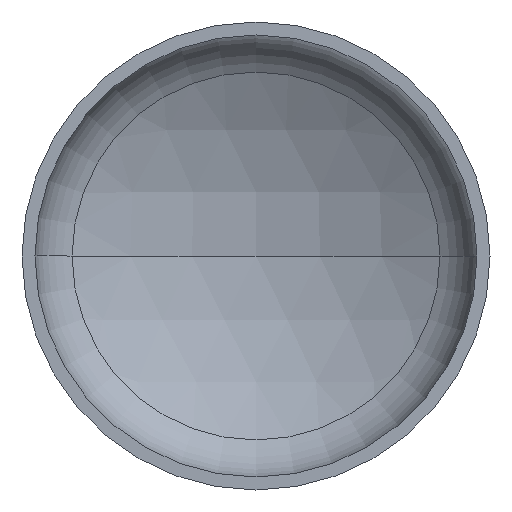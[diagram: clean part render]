
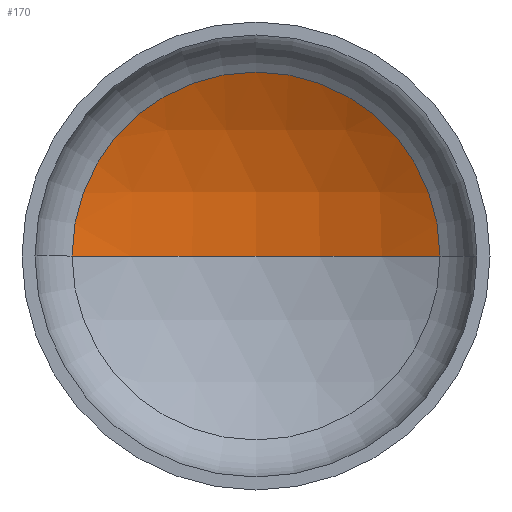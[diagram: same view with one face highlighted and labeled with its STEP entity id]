
A CAD part, front view. The second image highlights one B-rep face of the part: STEP entity #170.
In plain terms, the highlighted spherical face has radius 720 mm.
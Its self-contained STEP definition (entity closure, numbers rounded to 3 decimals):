
#21 = EDGE_LOOP ( 'NONE', ( #45, #77, #358 ) ) ;
#25 = AXIS2_PLACEMENT_3D ( 'NONE', #293, #277, #197 ) ;
#39 = VERTEX_POINT ( 'NONE', #300 ) ;
#45 = ORIENTED_EDGE ( 'NONE', *, *, #134, .F. ) ;
#48 = AXIS2_PLACEMENT_3D ( 'NONE', #212, #410, #347 ) ;
#53 = AXIS2_PLACEMENT_3D ( 'NONE', #236, #231, #233 ) ;
#57 = AXIS2_PLACEMENT_3D ( 'NONE', #214, #217, #308 ) ;
#76 = VERTEX_POINT ( 'NONE', #271 ) ;
#77 = ORIENTED_EDGE ( 'NONE', *, *, #119, .T. ) ;
#80 = VERTEX_POINT ( 'NONE', #267 ) ;
#103 = EDGE_CURVE ( 'NONE', #80, #39, #174, .T. ) ;
#119 = EDGE_CURVE ( 'NONE', #76, #80, #178, .T. ) ;
#134 = EDGE_CURVE ( 'NONE', #76, #39, #351, .T. ) ;
#170 = ADVANCED_FACE ( 'NONE', ( #281 ), #394, .F. ) ;
#174 = CIRCLE ( 'NONE', #57, 353.793 ) ;
#178 = CIRCLE ( 'NONE', #53, 720. ) ;
#197 = DIRECTION ( 'NONE',  ( -1., 0., 0. ) ) ;
#212 = CARTESIAN_POINT ( 'NONE',  ( 0., -430.148, 0. ) ) ;
#214 = CARTESIAN_POINT ( 'NONE',  ( 0., 196.932, 0. ) ) ;
#217 = DIRECTION ( 'NONE',  ( 0., -1., 0. ) ) ;
#231 = DIRECTION ( 'NONE',  ( 0., 0., -1. ) ) ;
#233 = DIRECTION ( 'NONE',  ( -1., 0., 0. ) ) ;
#236 = CARTESIAN_POINT ( 'NONE',  ( 0., -430.148, 0. ) ) ;
#267 = CARTESIAN_POINT ( 'NONE',  ( 353.793, 196.932, 0. ) ) ;
#271 = CARTESIAN_POINT ( 'NONE',  ( 0., 289.852, 0. ) ) ;
#277 = DIRECTION ( 'NONE',  ( 0., 0., -1. ) ) ;
#281 = FACE_OUTER_BOUND ( 'NONE', #21, .T. ) ;
#293 = CARTESIAN_POINT ( 'NONE',  ( 0., -430.148, 0. ) ) ;
#300 = CARTESIAN_POINT ( 'NONE',  ( -353.793, 196.932, 0. ) ) ;
#308 = DIRECTION ( 'NONE',  ( 1., 0., 0. ) ) ;
#347 = DIRECTION ( 'NONE',  ( 1., 0., 0. ) ) ;
#351 = CIRCLE ( 'NONE', #48, 720. ) ;
#358 = ORIENTED_EDGE ( 'NONE', *, *, #103, .T. ) ;
#394 = SPHERICAL_SURFACE ( 'NONE', #25, 720. ) ;
#410 = DIRECTION ( 'NONE',  ( 0., 0., 1. ) ) ;
